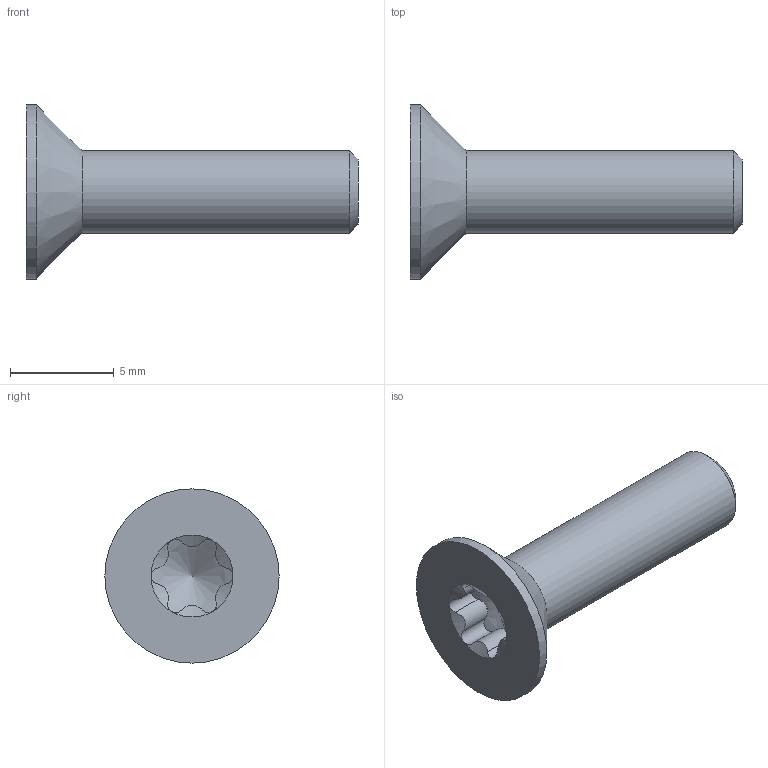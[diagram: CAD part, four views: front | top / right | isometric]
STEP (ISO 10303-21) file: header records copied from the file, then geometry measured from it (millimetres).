
FILE_DESCRIPTION(/* description */ ('BN 3803-Hexalobular (6 Lobe) socket countersunk flat head screws, fully threaded (ISO 14581), stainless steel A2'),/* implementation_level */ '2;1');
FILE_NAME(/* name */ 'C:\ADSK_DMS_WS\Designs\Vorschläge\Loc Schalen\Schraubenlängebestimmung\Schrauben\M4x16 Senkkopfschraube 90°mit TX20 A2.stp',/* time_stamp */ '2021-10-05T14:03:29+02:00',/* author */ ('gm'),/* organization */ ('BOSSARD'),/* preprocessor_version */ 'ST-DEVELOPER v16.5',/* originating_system */ 'Autodesk Inventor 2017',/* authorisation */ '');
FILE_SCHEMA (('AUTOMOTIVE_DESIGN { 1 0 10303 214 3 1 1 }'));
Length unit declared in the file: millimetre
Products named in the file (1): BN 3803  M4x16_INOX A2
Bounding box: 16 x 8.4 x 8.4 mm (x, y, z)
Volume: 244.6 mm3; surface area: 327.5 mm2
Topology: 1 solids, 1 shells, 31 faces, 83 edges, 54 vertices
Faces by surface type: cylinder 14, cone 9, plane 8
Full cylindrical faces by diameter (mm): 4 x1, 8.4 x1
Entity records: 1204 total; most frequent: CARTESIAN_POINT 492, ORIENTED_EDGE 154, DIRECTION 122, EDGE_CURVE 77, AXIS2_PLACEMENT_3D 55, VERTEX_POINT 53, B_SPLINE_CURVE_WITH_KNOTS 42, EDGE_LOOP 36
